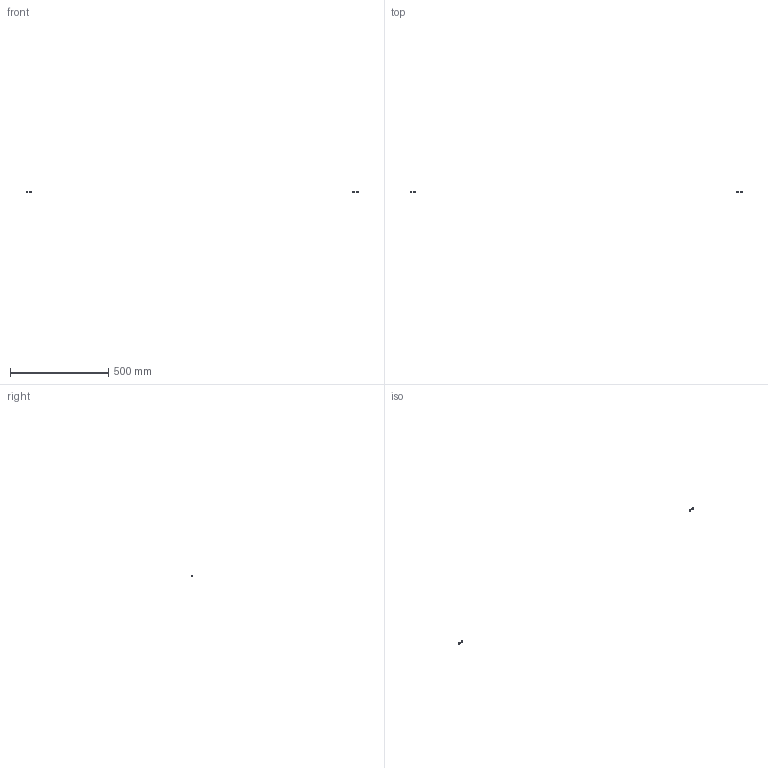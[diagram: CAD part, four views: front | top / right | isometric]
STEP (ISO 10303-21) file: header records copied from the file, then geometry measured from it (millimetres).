
FILE_DESCRIPTION(/* description */ (''),/* implementation_level */ '2;1');
FILE_NAME(/* name */ '4.frame-door#4.8#PWF5',/* time_stamp */ '2014-12-01T20:13:10+01:00',/* author */ (''),/* organization */ (''),/* preprocessor_version */ 'ST-DEVELOPER v14',/* originating_system */ '',/* authorisation */ '');
FILE_SCHEMA (('AUTOMOTIVE_DESIGN'));
Length unit declared in the file: millimetre
Products named in the file (2): Document; washer DIN125-like, form A, M5
Assembly tree (2 placements, depth 2):
  Document
    washer DIN125-like, form A, M5  x2
Bounding box: 1689.95 x 1 x 10 mm (x, y, z)
Surface area: 644.2 mm2 (no closed solid volume)
Topology: 0 solids, 24 shells, 24 faces, 80 edges, 80 vertices
Faces by surface type: bspline 16, plane 8
Entity records: 1539 total; most frequent: CARTESIAN_POINT 767, B_SPLINE_CURVE_WITH_KNOTS 72, ORIENTED_EDGE 60, PCURVE 60, DEFINITIONAL_REPRESENTATION 60, SURFACE_CURVE 60, EDGE_CURVE 60, VERTEX_POINT 60
